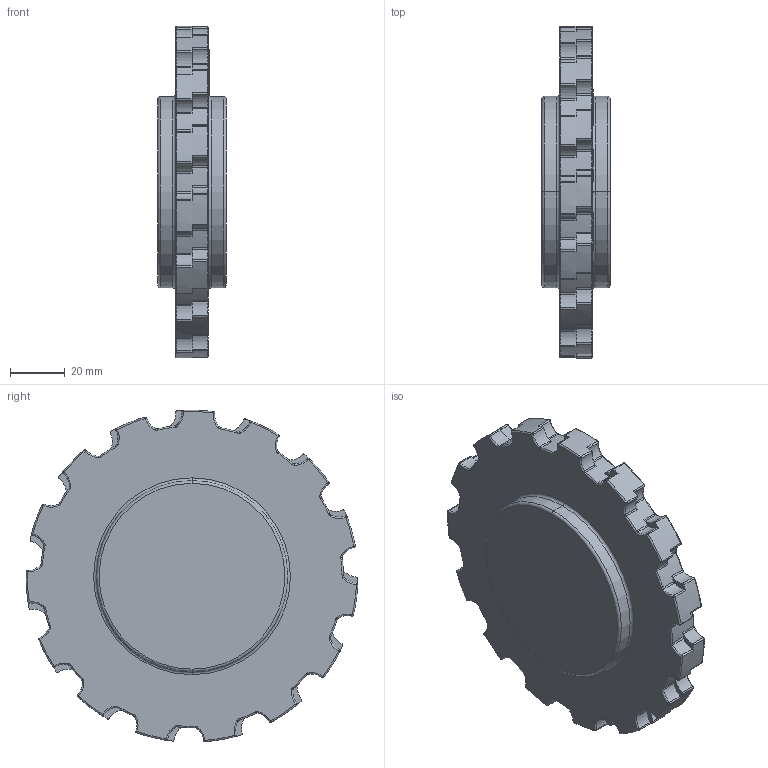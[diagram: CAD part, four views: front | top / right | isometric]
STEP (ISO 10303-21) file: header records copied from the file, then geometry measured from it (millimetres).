
FILE_DESCRIPTION((''),'2;1');
FILE_NAME('19Z15','2009-09-09T',('mth'),(''),'PRO/ENGINEER BY PARAMETRIC TECHNOLOGY CORPORATION, 2008490','PRO/ENGINEER BY PARAMETRIC TECHNOLOGY CORPORATION, 2008490','');
FILE_SCHEMA(('AUTOMOTIVE_DESIGN { 1 0 10303 214 1 1 1 1 }'));
Length unit declared in the file: millimetre
Products named in the file (1): 19Z15
Bounding box: 25 x 121.49 x 121.31 mm (x, y, z)
Volume: 178179.4 mm3; surface area: 29726.3 mm2
Topology: 1 solids, 1 shells, 853 faces, 2173 edges, 1345 vertices
Faces by surface type: plane 379, cylinder 224, torus 188, sphere 60, cone 2
Entity records: 25756 total; most frequent: DIRECTION 4823, CARTESIAN_POINT 4370, ORIENTED_EDGE 4342, EDGE_CURVE 2171, AXIS2_PLACEMENT_3D 1799, VERTEX_POINT 1345, VECTOR 1225, LINE 1225
